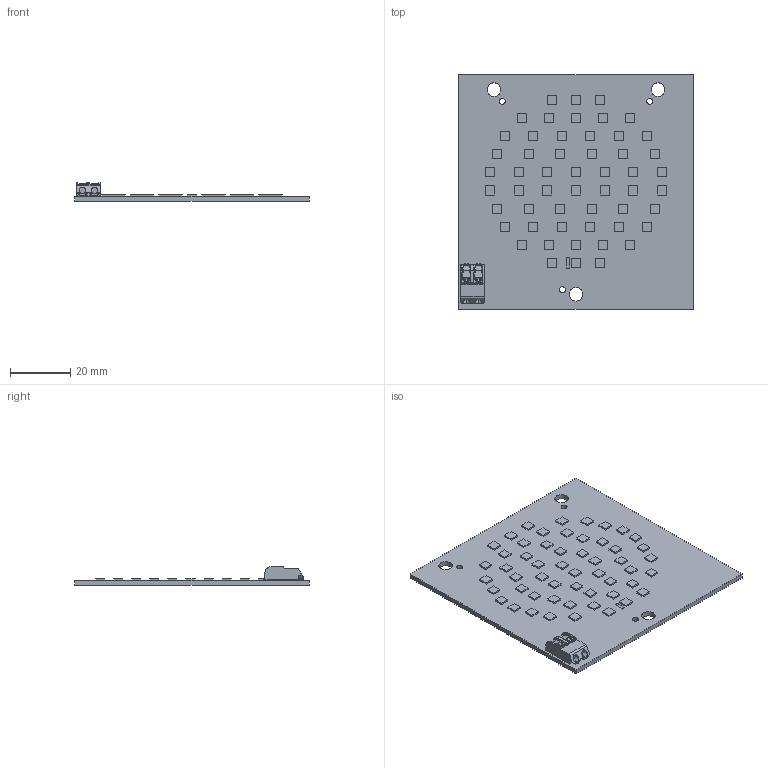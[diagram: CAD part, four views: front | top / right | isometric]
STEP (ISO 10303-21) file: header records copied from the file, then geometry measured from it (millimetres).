
FILE_DESCRIPTION((''),'2;1');
FILE_NAME('16207803_DLE-G4-3000LM','2017-02-02T',('bernhard.fink'),(''),'PRO/ENGINEER BY PARAMETRIC TECHNOLOGY CORPORATION, 2015200','PRO/ENGINEER BY PARAMETRIC TECHNOLOGY CORPORATION, 2015200','');
FILE_SCHEMA(('AUTOMOTIVE_DESIGN { 1 0 10303 214 1 1 1 1 }'));
Length unit declared in the file: millimetre
Products named in the file (1): 16207803_DLE-G4-3000LM
Bounding box: 78 x 78 x 6.15 mm (x, y, z)
Volume: 10492.2 mm3; surface area: 13555 mm2
Topology: 1 solids, 1 shells, 477 faces, 1252 edges, 836 vertices
Faces by surface type: plane 406, cylinder 69, sphere 2
Entity records: 22208 total; most frequent: CARTESIAN_POINT 2672, ORIENTED_EDGE 2504, DIRECTION 2340, PRESENTATION_STYLE_ASSIGNMENT 1730, STYLED_ITEM 1253, CURVE_STYLE 1252, EDGE_CURVE 1252, VECTOR 1078
